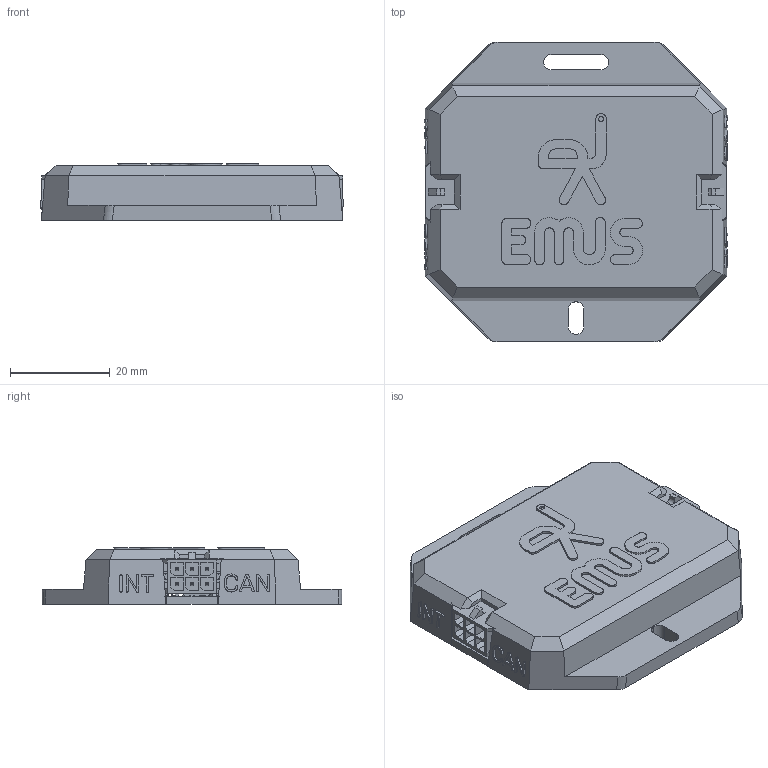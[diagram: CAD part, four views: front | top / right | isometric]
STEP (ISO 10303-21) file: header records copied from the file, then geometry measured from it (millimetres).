
FILE_DESCRIPTION(/* description */ (''),/* implementation_level */ '2;1');
FILE_NAME(/* name */ 'C:/Users/Justinas/Desktop/step/CSL022 v23.step',/* time_stamp */ '2022-11-21T14:52:35+02:00',/* author */ (''),/* organization */ (''),/* preprocessor_version */ 'ST-DEVELOPER v18.1',/* originating_system */ 'Autodesk Translation Framework v10.10.0.1391',/* authorisation */ '');
FILE_SCHEMA (('AUTOMOTIVE_DESIGN { 1 0 10303 214 3 1 1 }'));
Products named in the file (93): CSL022; Board; Open CASCADE STEP translator 6.8 3.1.1; J2; J1; 430450610; Open CASCADE STEP translator 6.8 3.30.1.1; Open CASCADE STEP translator 6.8 3.30.1.2; R9; R8; D6; R7; R6; RES0805; C30; U8; U7; Tr1; 6054972736; Extruded; D8; D7; SOD-323; C29; C28; C27; C26; U2; SOT23-5; User_Library-SOT23-5-5_SOT23-5_BODY; User_Library-SOT23-5-5_SOT23_LEG; Y1; crystal_smd_52x34x1; U6; U5; SOIC8; U4; 21-0041B_8; U3; LQFP64-2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
Assembly tree (197 placements, depth 4):
  CSL022
    Board
      Open CASCADE STEP translator 6.8 3.1.1
    J2
      430450610
        Open CASCADE STEP translator 6.8 3.30.1.1
        Open CASCADE STEP translator 6.8 3.30.1.2
    J1
      430450610
        Open CASCADE STEP translator 6.8 3.30.1.1
        Open CASCADE STEP translator 6.8 3.30.1.2
    R9
      RES1206
    R8
      RES1206
    D6
      SOT23
    R7
      RES0805
    R6
      RES0805
    C30
      C0603
    U8
      SOT23-5
        User_Library-SOT23-5-5_SOT23-5_BODY
        User_Library-SOT23-5-5_SOT23_LEG  x5
    U7
      SOIC8
    Tr1
      6054972736
        Extruded
    D8
      SOD-323
    D7
      SOD-323
    C29
      C0805
    C28
      C0603
    C27
      C0603
    C26
      C0805
    U2
      SOT23-5
        User_Library-SOT23-5-5_SOT23-5_BODY
        User_Library-SOT23-5-5_SOT23_LEG  x5
    Y1
      crystal_smd_52x34x1
    U6
      SOIC8
    U5
      SOIC8
    U4
      21-0041B_8
    U3
      LQFP64-2
        case
        pin  x64
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Bounding box: 60.82 x 60.07 x 11.4 mm (x, y, z)
Volume: 14757.7 mm3; surface area: 19468.9 mm2
Topology: 232 solids, 238 shells, 7359 faces, 18497 edges, 11489 vertices
Faces by surface type: plane 4390, cylinder 1588, bspline 946, sphere 422, torus 12, cone 1
Full cylindrical faces by diameter (mm): 0.199 x1, 0.42 x3, 1 x2
Entity records: 106516 total; most frequent: CARTESIAN_POINT 35872, ORIENTED_EDGE 14898, DIRECTION 12914, EDGE_CURVE 7449, LINE 5526, VECTOR 5526, VERTEX_POINT 4743, AXIS2_PLACEMENT_3D 3694
